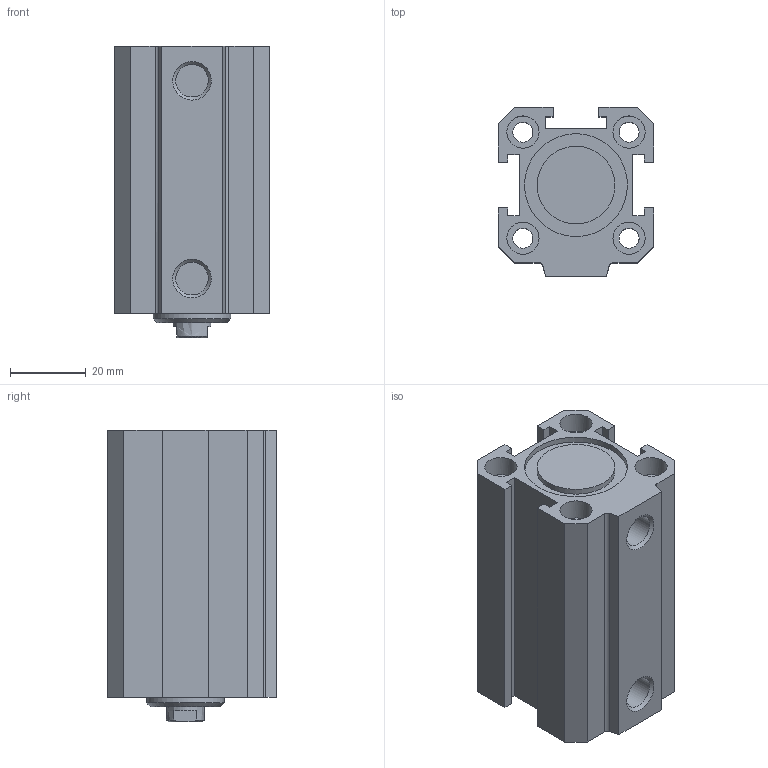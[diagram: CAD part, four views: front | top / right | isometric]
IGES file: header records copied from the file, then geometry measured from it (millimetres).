
Global section: file name: 1511_25_0035; native system: Autodesk Inventor 2014; preprocessor: unknown; author: A. Manieri; date: 20160824.111904; units: millimetre
Bounding box: 41 x 44.5 x 77 mm (x, y, z)
Volume: 80454.2 mm3; surface area: 32943.3 mm2
Topology: 2 solids, 2 shells, 93 faces, 241 edges, 170 vertices
Faces by surface type: bspline 93
